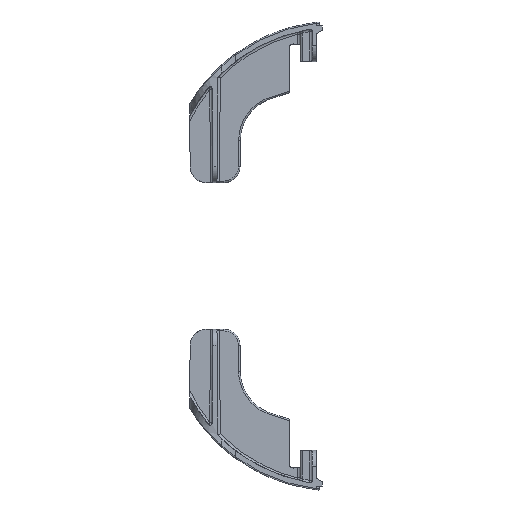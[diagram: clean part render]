
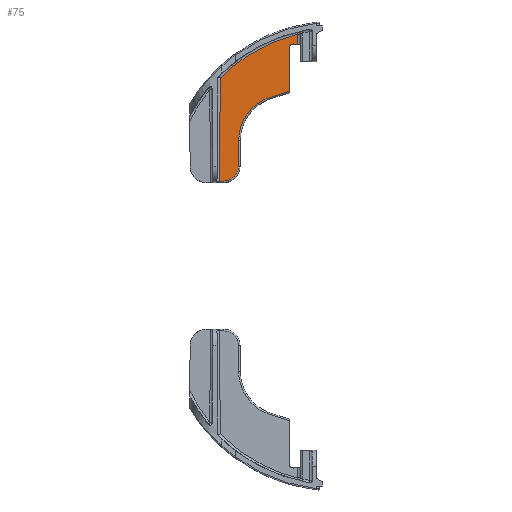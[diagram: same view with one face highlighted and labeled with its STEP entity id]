
A CAD part, left-side view. The second image highlights one B-rep face of the part: STEP entity #75.
In plain terms, the highlighted planar face has unit normal (-1, 0, -0.009).
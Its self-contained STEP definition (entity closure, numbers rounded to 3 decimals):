
#75=ADVANCED_FACE('NONE',(#373),#374,.T.);
#373=FACE_OUTER_BOUND('',#939,.T.);
#374=PLANE('',#940);
#939=EDGE_LOOP('',(#4479,#4480,#4481,#4482,#4483,#4484,#4485,#4486,#4487,#4488,#4489));
#940=AXIS2_PLACEMENT_3D('',#4490,#4491,#4492);
#4479=ORIENTED_EDGE('',*,*,#6554,.T.);
#4480=ORIENTED_EDGE('',*,*,#6555,.T.);
#4481=ORIENTED_EDGE('',*,*,#6556,.T.);
#4482=ORIENTED_EDGE('',*,*,#6557,.T.);
#4483=ORIENTED_EDGE('',*,*,#6558,.T.);
#4484=ORIENTED_EDGE('',*,*,#6559,.T.);
#4485=ORIENTED_EDGE('',*,*,#6560,.T.);
#4486=ORIENTED_EDGE('',*,*,#6561,.T.);
#4487=ORIENTED_EDGE('',*,*,#6562,.T.);
#4488=ORIENTED_EDGE('',*,*,#6563,.T.);
#4489=ORIENTED_EDGE('',*,*,#6564,.T.);
#4490=CARTESIAN_POINT('',(-1.,13.0,36.526));
#4491=DIRECTION('',(-1.,0.,-0.009));
#4492=DIRECTION('',(0.0,-1.0,0.));
#6554=EDGE_CURVE('NONE',#7232,#7360,#7361,.T.);
#6555=EDGE_CURVE('NONE',#7360,#7362,#7363,.T.);
#6556=EDGE_CURVE('NONE',#7362,#7364,#7365,.T.);
#6557=EDGE_CURVE('NONE',#7364,#7366,#7367,.T.);
#6558=EDGE_CURVE('NONE',#7366,#7368,#7369,.T.);
#6559=EDGE_CURVE('NONE',#7368,#7370,#7371,.T.);
#6560=EDGE_CURVE('NONE',#7370,#7372,#7373,.T.);
#6561=EDGE_CURVE('NONE',#7372,#7374,#7375,.T.);
#6562=EDGE_CURVE('NONE',#7374,#7376,#7377,.T.);
#6563=EDGE_CURVE('NONE',#7376,#7378,#7379,.T.);
#6564=EDGE_CURVE('NONE',#7378,#7232,#7380,.T.);
#7232=VERTEX_POINT('NONE',#8422);
#7360=VERTEX_POINT('NONE',#8693);
#7361=(B_SPLINE_CURVE(3,(#8695,#8696,#8697,#8698),.UNSPECIFIED.,.F.,.F.)B_SPLINE_CURVE_WITH_KNOTS((4,4),(3.379,3.935),.UNSPECIFIED.)RATIONAL_B_SPLINE_CURVE((1.0,0.974,0.974,1.0))BOUNDED_CURVE()REPRESENTATION_ITEM('')GEOMETRIC_REPRESENTATION_ITEM()CURVE());
#7362=VERTEX_POINT('NONE',#8705);
#7363=LINE('',#8706,#8707);
#7364=VERTEX_POINT('NONE',#8708);
#7365=LINE('',#8709,#8710);
#7366=VERTEX_POINT('NONE',#8711);
#7367=(B_SPLINE_CURVE(3,(#8713,#8714,#8715,#8716),.UNSPECIFIED.,.F.,.F.)B_SPLINE_CURVE_WITH_KNOTS((4,4),(0.0,1.562),.UNSPECIFIED.)RATIONAL_B_SPLINE_CURVE((1.0,0.807,0.807,1.0))BOUNDED_CURVE()REPRESENTATION_ITEM('')GEOMETRIC_REPRESENTATION_ITEM()CURVE());
#7368=VERTEX_POINT('NONE',#8723);
#7369=LINE('',#8724,#8725);
#7370=VERTEX_POINT('NONE',#8726);
#7371=(B_SPLINE_CURVE(3,(#8728,#8729,#8730,#8731),.UNSPECIFIED.,.F.,.F.)B_SPLINE_CURVE_WITH_KNOTS((4,4),(1.58,2.753),.UNSPECIFIED.)RATIONAL_B_SPLINE_CURVE((1.0,0.888,0.888,1.0))BOUNDED_CURVE()REPRESENTATION_ITEM('')GEOMETRIC_REPRESENTATION_ITEM()CURVE());
#7372=VERTEX_POINT('NONE',#8738);
#7373=(B_SPLINE_CURVE(3,(#8740,#8741,#8742,#8743),.UNSPECIFIED.,.F.,.F.)B_SPLINE_CURVE_WITH_KNOTS((4,4),(2.753,2.897),.UNSPECIFIED.)RATIONAL_B_SPLINE_CURVE((1.0,0.998,0.998,1.0))BOUNDED_CURVE()REPRESENTATION_ITEM('')GEOMETRIC_REPRESENTATION_ITEM()CURVE());
#7374=VERTEX_POINT('NONE',#8750);
#7375=LINE('',#8751,#8752);
#7376=VERTEX_POINT('NONE',#8753);
#7377=(B_SPLINE_CURVE(3,(#8755,#8756,#8757,#8758),.UNSPECIFIED.,.F.,.F.)B_SPLINE_CURVE_WITH_KNOTS((4,4),(4.712,6.489),.UNSPECIFIED.)RATIONAL_B_SPLINE_CURVE((1.0,0.754,0.754,1.0))BOUNDED_CURVE()REPRESENTATION_ITEM('')GEOMETRIC_REPRESENTATION_ITEM()CURVE());
#7378=VERTEX_POINT('NONE',#8765);
#7379=LINE('',#8766,#8767);
#7380=LINE('',#8768,#8769);
#8422=CARTESIAN_POINT('',(-1.645,-41.3,110.482));
#8693=CARTESIAN_POINT('',(-1.454,-2.654,88.594));
#8695=CARTESIAN_POINT('',(-1.645,-41.3,110.482));
#8696=CARTESIAN_POINT('',(-1.614,-26.53,106.916));
#8697=CARTESIAN_POINT('',(-1.549,-13.308,99.428));
#8698=CARTESIAN_POINT('',(-1.454,-2.654,88.594));
#8705=CARTESIAN_POINT('',(-1.007,-2.207,37.319));
#8706=CARTESIAN_POINT('',(-1.007,-2.207,37.309));
#8707=VECTOR('',#12344,1000.0);
#8708=CARTESIAN_POINT('',(-1.007,-4.47,37.319));
#8709=CARTESIAN_POINT('',(-1.007,13.0,37.319));
#8710=VECTOR('',#12345,1000.0);
#8711=CARTESIAN_POINT('',(-1.069,-11.669,44.456));
#8713=CARTESIAN_POINT('',(-1.007,-4.47,37.319));
#8714=CARTESIAN_POINT('',(-1.007,-8.658,37.319));
#8715=CARTESIAN_POINT('',(-1.033,-11.633,40.268));
#8716=CARTESIAN_POINT('',(-1.069,-11.669,44.456));
#8723=CARTESIAN_POINT('',(-1.183,-11.783,57.526));
#8724=CARTESIAN_POINT('',(-0.998,-11.598,36.312));
#8725=VECTOR('',#12346,1000.0);
#8726=CARTESIAN_POINT('',(-1.366,-25.946,78.428));
#8728=CARTESIAN_POINT('',(-1.183,-11.783,57.526));
#8729=CARTESIAN_POINT('',(-1.266,-11.866,66.998));
#8730=CARTESIAN_POINT('',(-1.334,-17.18,74.84));
#8731=CARTESIAN_POINT('',(-1.366,-25.946,78.428));
#8738=CARTESIAN_POINT('',(-1.397,-37.,82.048));
#8740=CARTESIAN_POINT('',(-1.366,-25.946,78.428));
#8741=CARTESIAN_POINT('',(-1.379,-29.541,79.899));
#8742=CARTESIAN_POINT('',(-1.389,-33.232,81.108));
#8743=CARTESIAN_POINT('',(-1.397,-37.,82.048));
#8750=CARTESIAN_POINT('',(-1.585,-37.,103.526));
#8751=CARTESIAN_POINT('',(-1.,-37.,36.526));
#8752=VECTOR('',#12347,1000.0);
#8753=CARTESIAN_POINT('',(-1.602,-39.409,105.484));
#8755=CARTESIAN_POINT('',(-1.585,-37.,103.526));
#8756=CARTESIAN_POINT('',(-1.597,-37.,104.899));
#8757=CARTESIAN_POINT('',(-1.604,-38.065,105.765));
#8758=CARTESIAN_POINT('',(-1.602,-39.409,105.484));
#8765=CARTESIAN_POINT('',(-1.602,-41.3,105.484));
#8766=CARTESIAN_POINT('',(-1.602,-39.409,105.484));
#8767=VECTOR('',#12348,1000.0);
#8768=CARTESIAN_POINT('',(-1.658,-41.3,111.982));
#8769=VECTOR('',#12349,1000.0);
#12344=DIRECTION('',(0.009,0.009,-1.));
#12345=DIRECTION('',(0.,-1.0,0.));
#12346=DIRECTION('',(-0.009,-0.009,1.));
#12347=DIRECTION('',(-0.009,0.,1.));
#12348=DIRECTION('',(0.,-1.0,0.));
#12349=DIRECTION('',(-0.009,0.,1.));
